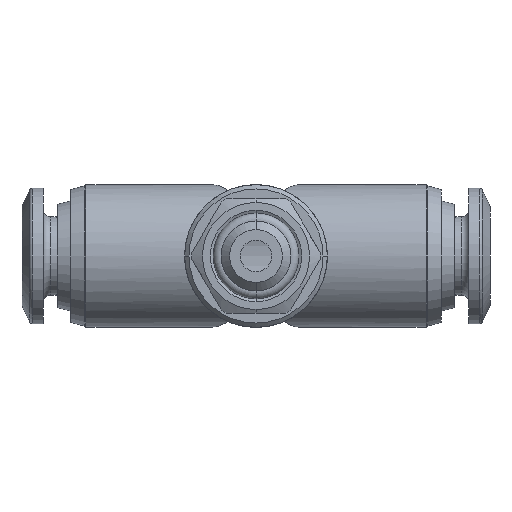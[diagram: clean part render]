
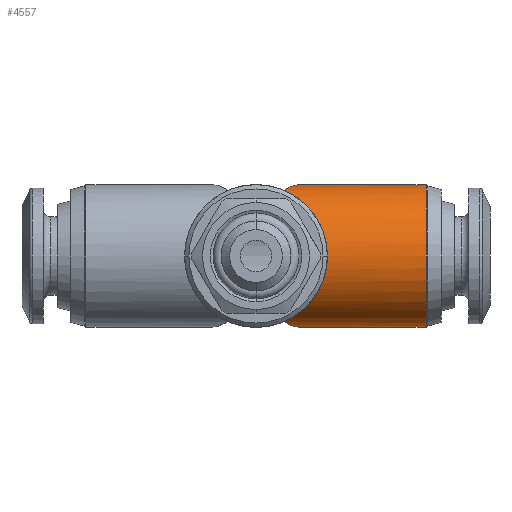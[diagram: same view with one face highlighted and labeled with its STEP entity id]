
A CAD part, front view. The second image highlights one B-rep face of the part: STEP entity #4557.
In plain terms, the highlighted cylindrical face has radius 5 mm (diameter 10 mm), a partial arc.
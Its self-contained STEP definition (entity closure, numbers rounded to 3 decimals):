
#2 = VERTEX_POINT ( 'NONE', #8733 ) ;
#70 = CARTESIAN_POINT ( 'NONE',  ( 3.867, -3.867, -3.781 ) ) ;
#195 = CARTESIAN_POINT ( 'NONE',  ( 5., -5., 0. ) ) ;
#299 = CARTESIAN_POINT ( 'NONE',  ( 5., -5., -2.06 ) ) ;
#863 = B_SPLINE_CURVE_WITH_KNOTS ( 'NONE', 3,
 ( #7713, #7823, #7691, #7681, #7661, #7643 ),
 .UNSPECIFIED., .F., .F.,
 ( 4, 2, 4 ),
 ( 0., 0.479, 1. ),
 .UNSPECIFIED. ) ;
#902 = DIRECTION ( 'NONE',  ( -1., 0., 0. ) ) ;
#1235 = VECTOR ( 'NONE', #8849, 1000. ) ;
#1436 = VERTEX_POINT ( 'NONE', #2312 ) ;
#1747 = CIRCLE ( 'NONE', #4789, 5. ) ;
#1764 = EDGE_CURVE ( 'NONE', #2, #4563, #1747, .T. ) ;
#1831 = EDGE_CURVE ( 'NONE', #2971, #3978, #7086, .T. ) ;
#1991 = EDGE_CURVE ( 'NONE', #4632, #3978, #7620, .T. ) ;
#2095 = CYLINDRICAL_SURFACE ( 'NONE', #2707, 5. ) ;
#2312 = CARTESIAN_POINT ( 'NONE',  ( 3.113, 0., 5. ) ) ;
#2397 = EDGE_CURVE ( 'NONE', #2, #4632, #3287, .T. ) ;
#2414 =( BOUNDED_CURVE ( )  B_SPLINE_CURVE ( 3, ( #8973, #7247, #7217, #7213 ),
 .UNSPECIFIED., .F., .F. ) 
 B_SPLINE_CURVE_WITH_KNOTS ( ( 4, 4 ),
 ( 1.977, 3.142 ),
 .UNSPECIFIED. ) 
 CURVE ( )  GEOMETRIC_REPRESENTATION_ITEM ( )  RATIONAL_B_SPLINE_CURVE ( ( 1., 0.89, 0.89, 1. ) ) 
 REPRESENTATION_ITEM ( '' )  );
#2554 = VERTEX_POINT ( 'NONE', #7436 ) ;
#2707 = AXIS2_PLACEMENT_3D ( 'NONE', #8534, #3076, #8246 ) ;
#2879 = CARTESIAN_POINT ( 'NONE',  ( 3.113, 0., -5. ) ) ;
#2971 = VERTEX_POINT ( 'NONE', #7964 ) ;
#2984 = CARTESIAN_POINT ( 'NONE',  ( 2.036, -1.865, 4.639 ) ) ;
#3076 = DIRECTION ( 'NONE',  ( -1., 0., 0. ) ) ;
#3103 = EDGE_CURVE ( 'NONE', #2554, #2971, #2414, .T. ) ;
#3188 = ORIENTED_EDGE ( 'NONE', *, *, #2397, .F. ) ;
#3287 = LINE ( 'NONE', #8936, #1235 ) ;
#3546 = EDGE_CURVE ( 'NONE', #4563, #1436, #3895, .T. ) ;
#3613 = ORIENTED_EDGE ( 'NONE', *, *, #1764, .T. ) ;
#3719 = ORIENTED_EDGE ( 'NONE', *, *, #3546, .T. ) ;
#3895 = LINE ( 'NONE', #4830, #4087 ) ;
#3938 = ORIENTED_EDGE ( 'NONE', *, *, #6778, .F. ) ;
#3947 = ORIENTED_EDGE ( 'NONE', *, *, #7033, .F. ) ;
#3978 = VERTEX_POINT ( 'NONE', #6376 ) ;
#4020 = ORIENTED_EDGE ( 'NONE', *, *, #3103, .T. ) ;
#4058 = ORIENTED_EDGE ( 'NONE', *, *, #1831, .T. ) ;
#4087 = VECTOR ( 'NONE', #902, 1000. ) ;
#4167 = ORIENTED_EDGE ( 'NONE', *, *, #1991, .F. ) ;
#4364 = CARTESIAN_POINT ( 'NONE',  ( 1.997, -1.934, -4.611 ) ) ;
#4557 = ADVANCED_FACE ( 'NONE', ( #6602 ), #2095, .T. ) ;
#4563 = VERTEX_POINT ( 'NONE', #7845 ) ;
#4632 = VERTEX_POINT ( 'NONE', #2879 ) ;
#4789 = AXIS2_PLACEMENT_3D ( 'NONE', #4932, #6359, #7649 ) ;
#4830 = CARTESIAN_POINT ( 'NONE',  ( 0., 0., 5. ) ) ;
#4932 = CARTESIAN_POINT ( 'NONE',  ( 11.918, 0., 0. ) ) ;
#5185 = CARTESIAN_POINT ( 'NONE',  ( 2.05, -1.841, 4.649 ) ) ;
#5730 = CARTESIAN_POINT ( 'NONE',  ( 2.365, -1.296, -4.84 ) ) ;
#5774 = CARTESIAN_POINT ( 'NONE',  ( 1.974, -1.974, -4.594 ) ) ;
#5797 = CARTESIAN_POINT ( 'NONE',  ( 2.183, -1.611, -4.745 ) ) ;
#5806 = CARTESIAN_POINT ( 'NONE',  ( 1.985, -1.954, -4.603 ) ) ;
#6151 = VERTEX_POINT ( 'NONE', #5185 ) ;
#6359 = DIRECTION ( 'NONE',  ( -1., 0., 0. ) ) ;
#6376 = CARTESIAN_POINT ( 'NONE',  ( 1.974, -1.974, -4.594 ) ) ;
#6579 = CARTESIAN_POINT ( 'NONE',  ( 2.05, -1.841, 4.649 ) ) ;
#6602 = FACE_OUTER_BOUND ( 'NONE', #8812, .T. ) ;
#6611 = CARTESIAN_POINT ( 'NONE',  ( 2.022, -1.889, 4.629 ) ) ;
#6626 = CARTESIAN_POINT ( 'NONE',  ( 1.997, -1.934, 4.611 ) ) ;
#6665 = CARTESIAN_POINT ( 'NONE',  ( 1.985, -1.954, 4.603 ) ) ;
#6687 = CARTESIAN_POINT ( 'NONE',  ( 2.735, -0.654, -4.968 ) ) ;
#6693 = CARTESIAN_POINT ( 'NONE',  ( 1.974, -1.974, 4.594 ) ) ;
#6778 = EDGE_CURVE ( 'NONE', #6151, #1436, #863, .T. ) ;
#7033 = EDGE_CURVE ( 'NONE', #2554, #6151, #8480, .T. ) ;
#7086 =( BOUNDED_CURVE ( )  B_SPLINE_CURVE ( 3, ( #195, #299, #70, #9250 ),
 .UNSPECIFIED., .F., .F. ) 
 B_SPLINE_CURVE_WITH_KNOTS ( ( 4, 4 ),
 ( 3.142, 4.307 ),
 .UNSPECIFIED. ) 
 CURVE ( )  GEOMETRIC_REPRESENTATION_ITEM ( )  RATIONAL_B_SPLINE_CURVE ( ( 1., 0.89, 0.89, 1. ) ) 
 REPRESENTATION_ITEM ( '' )  );
#7110 = CARTESIAN_POINT ( 'NONE',  ( 2.924, -0.327, -5. ) ) ;
#7213 = CARTESIAN_POINT ( 'NONE',  ( 5., -5., 0. ) ) ;
#7217 = CARTESIAN_POINT ( 'NONE',  ( 5., -5., 2.06 ) ) ;
#7247 = CARTESIAN_POINT ( 'NONE',  ( 3.867, -3.867, 3.781 ) ) ;
#7436 = CARTESIAN_POINT ( 'NONE',  ( 1.974, -1.974, 4.594 ) ) ;
#7620 = B_SPLINE_CURVE_WITH_KNOTS ( 'NONE', 3,
 ( #7999, #7110, #6687, #5730, #5797, #4364, #5806, #5774 ),
 .UNSPECIFIED., .F., .F.,
 ( 4, 2, 2, 4 ),
 ( 0.326, 0.652, 0.978, 1. ),
 .UNSPECIFIED. ) ;
#7643 = CARTESIAN_POINT ( 'NONE',  ( 3.113, 0., 5. ) ) ;
#7649 = DIRECTION ( 'NONE',  ( 0., 0., 1. ) ) ;
#7661 = CARTESIAN_POINT ( 'NONE',  ( 2.924, -0.327, 5. ) ) ;
#7681 = CARTESIAN_POINT ( 'NONE',  ( 2.735, -0.654, 4.968 ) ) ;
#7691 = CARTESIAN_POINT ( 'NONE',  ( 2.38, -1.271, 4.845 ) ) ;
#7713 = CARTESIAN_POINT ( 'NONE',  ( 2.05, -1.841, 4.649 ) ) ;
#7823 = CARTESIAN_POINT ( 'NONE',  ( 2.212, -1.561, 4.76 ) ) ;
#7845 = CARTESIAN_POINT ( 'NONE',  ( 11.918, 0., 5. ) ) ;
#7964 = CARTESIAN_POINT ( 'NONE',  ( 5., -5., 0. ) ) ;
#7999 = CARTESIAN_POINT ( 'NONE',  ( 3.113, 0., -5. ) ) ;
#8246 = DIRECTION ( 'NONE',  ( 0., 0., 1. ) ) ;
#8480 = B_SPLINE_CURVE_WITH_KNOTS ( 'NONE', 3,
 ( #6693, #6665, #6626, #6611, #2984, #6579 ),
 .UNSPECIFIED., .F., .F.,
 ( 4, 2, 4 ),
 ( 0.006, 0.006, 0.006 ),
 .UNSPECIFIED. ) ;
#8534 = CARTESIAN_POINT ( 'NONE',  ( 0., 0., 0. ) ) ;
#8733 = CARTESIAN_POINT ( 'NONE',  ( 11.918, 0., -5. ) ) ;
#8812 = EDGE_LOOP ( 'NONE', ( #3188, #3613, #3719, #3938, #3947, #4020, #4058, #4167 ) ) ;
#8849 = DIRECTION ( 'NONE',  ( -1., 0., 0. ) ) ;
#8936 = CARTESIAN_POINT ( 'NONE',  ( 0., 0., -5. ) ) ;
#8973 = CARTESIAN_POINT ( 'NONE',  ( 1.974, -1.974, 4.594 ) ) ;
#9250 = CARTESIAN_POINT ( 'NONE',  ( 1.974, -1.974, -4.594 ) ) ;
